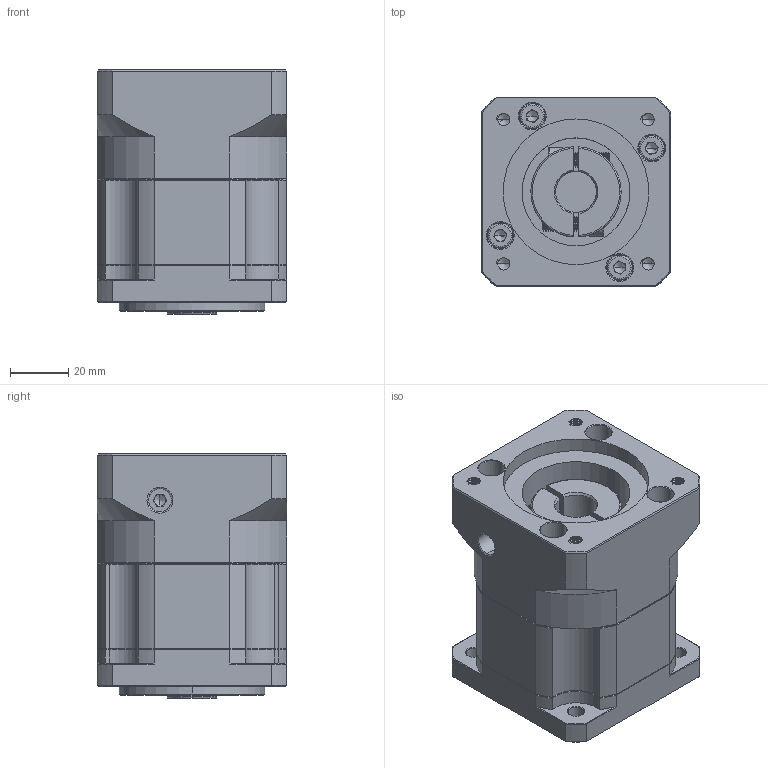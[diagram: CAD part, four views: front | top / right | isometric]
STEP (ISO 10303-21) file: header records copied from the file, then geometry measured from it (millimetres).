
FILE_DESCRIPTION (( 'STEP AP214' ), '1' );
FILE_NAME ('ZB060-K10-L1-P2-14-50-70-M5.step', '2023-08-16T07:09:40', ( '' ), ( '' ), 'SwSTEP 2.0', 'SolidWorks 2016', '' );
FILE_SCHEMA (( 'AUTOMOTIVE_DESIGN' ));
Length unit declared in the file: millimetre
Products named in the file (1): ZB060-K10-L1-P2-14-50-70-M5
Bounding box: 65 x 65 x 84 mm (x, y, z)
Volume: 261602.5 mm3; surface area: 53824.2 mm2
Topology: 6 solids, 6 shells, 2111 faces, 5678 edges, 3658 vertices
Faces by surface type: plane 1056, bspline 390, cylinder 354, cone 277, torus 34
Entity records: 111778 total; most frequent: CARTESIAN_POINT 38456, ORIENTED_EDGE 11300, DIRECTION 8986, EDGE_CURVE 5650, VERTEX_POINT 3658, VECTOR 3606, LINE 3606, AXIS2_PLACEMENT_3D 2690
